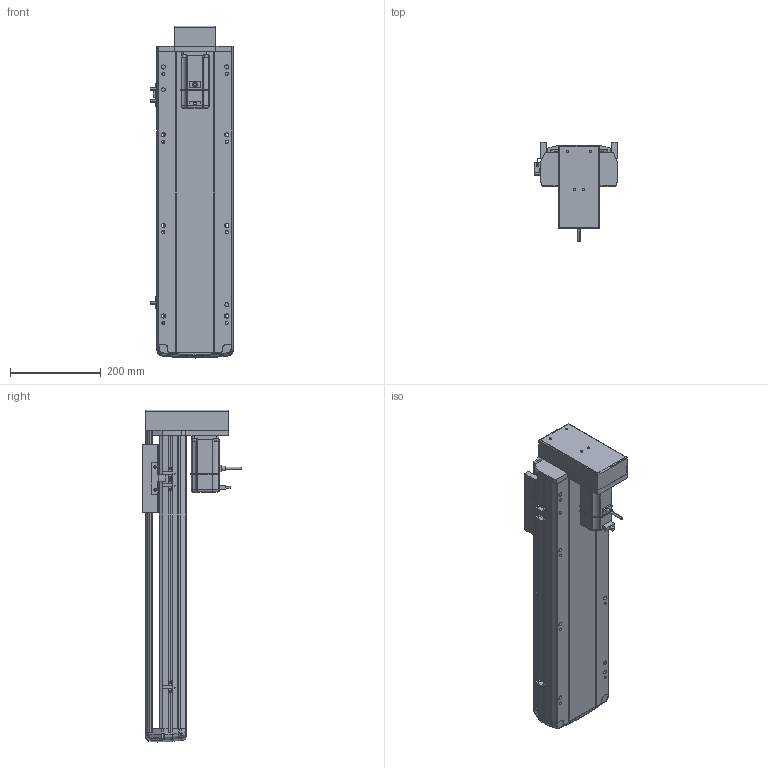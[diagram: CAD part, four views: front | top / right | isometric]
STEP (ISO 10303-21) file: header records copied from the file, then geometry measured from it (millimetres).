
FILE_DESCRIPTION (( 'STEP AP214' ), '1' );
FILE_NAME ('RTH17-XX-450-M-M40-C4.STEP', '2025-10-24T09:04:19', ( '' ), ( '' ), 'SwSTEP 2.0', 'SolidWorks 2018', '' );
FILE_SCHEMA (( 'AUTOMOTIVE_DESIGN' ));
Length unit declared in the file: millimetre
Products named in the file (10): N_RTH-BL-012 感应片(外置)^RTH17-XX-XX-M-M40-C4（方程式）; N_RTH17-M-011底座^RTH17-XX-XX-M-M40-C4（方程式）; N_RTH17-GY-001P^RTH17-XX-XX-M-M40-C4（方程式）; N_OMRON EE-SX672 換覜ん^RTH17-XX-XX-M-M40-C4ㄗ源最宒ㄘ; N_RTH17-E-004丝杆螺母连接座^RTH17-XX-XX-M-M40-C4（方程式）; N_M40^RTH17-XX-XX-M-M40-C4（方程式）; N_RTH17-M-008-P40电机安装板下折^RTH17-XX-XX-M-M40-C4（方程式）; N_RTH17-M-007上盖^RTH17-XX-XX-M-M40-C4（方程式）; N_RTH17-M-018盖子^RTH17-XX-XX-M-M40-C4（方程式）; RTH17-XX-450-M-M40-C4
Assembly tree (11 placements, depth 2):
  RTH17-XX-450-M-M40-C4
    N_RTH17-M-011底座^RTH17-XX-XX-M-M40-C4（方程式）
    N_RTH17-M-007上盖^RTH17-XX-XX-M-M40-C4（方程式）
    N_M40^RTH17-XX-XX-M-M40-C4（方程式）
    N_OMRON EE-SX672 換覜ん^RTH17-XX-XX-M-M40-C4ㄗ源最宒ㄘ  x3
    N_RTH-BL-012 感应片(外置)^RTH17-XX-XX-M-M40-C4（方程式）
    N_RTH17-M-008-P40电机安装板下折^RTH17-XX-XX-M-M40-C4（方程式）
    N_RTH17-M-018盖子^RTH17-XX-XX-M-M40-C4（方程式）
    N_RTH17-E-004丝杆螺母连接座^RTH17-XX-XX-M-M40-C4（方程式）
    N_RTH17-GY-001P^RTH17-XX-XX-M-M40-C4（方程式）
Bounding box: 183.5 x 219 x 733.27 mm (x, y, z)
Volume: 6071360.4 mm3; surface area: 914405.9 mm2
Topology: 10 solids, 12 shells, 1631 faces, 4536 edges, 2956 vertices
Faces by surface type: plane 828, cylinder 436, bspline 330, cone 28, torus 9
Entity records: 47224 total; most frequent: CARTESIAN_POINT 19152, ORIENTED_EDGE 6096, DIRECTION 5020, EDGE_CURVE 3052, VERTEX_POINT 1992, LINE 1738, VECTOR 1738, AXIS2_PLACEMENT_3D 1641
